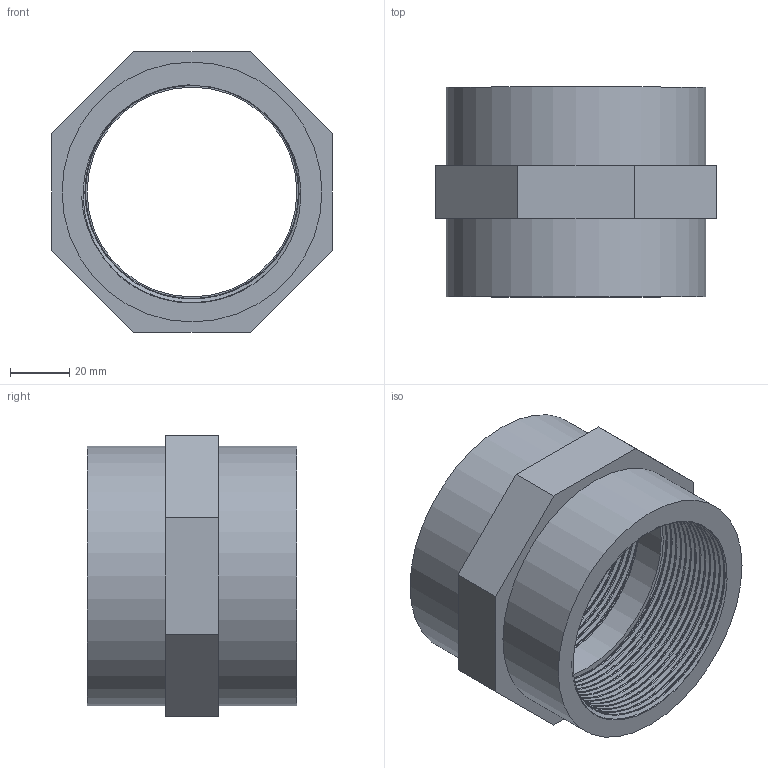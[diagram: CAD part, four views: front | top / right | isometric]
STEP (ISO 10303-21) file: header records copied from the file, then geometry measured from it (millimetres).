
FILE_DESCRIPTION(/* description */ ('PVC manicotto filettato BSP femmina'),/* implementation_level */ '2;1');
FILE_NAME(/* name */ 'C:\Users\POLYPIPE\Desktop\DATASET INVENTOR\LIBRERIA EFFAST\RACCORDI 3DxWEB\RER\3D_RERMAE\3D_RERMAE075H.stp',/* time_stamp */ '2018-01-19T16:37:47+01:00',/* author */ ('POLYPIPE'),/* organization */ ('Polypipe Italia'),/* preprocessor_version */ 'ST-DEVELOPER v16.1',/* originating_system */ 'Autodesk Inventor 2016',/* authorisation */ '');
FILE_SCHEMA (('CONFIG_CONTROL_DESIGN'));
Length unit declared in the file: millimetre
Products named in the file (1): 3D_RERMAE
Bounding box: 95 x 71 x 95 mm (x, y, z)
Volume: 157039.6 mm3; surface area: 53665.8 mm2
Topology: 1 solids, 1 shells, 27 faces, 63 edges, 42 vertices
Faces by surface type: plane 14, bspline 10, cylinder 3
Full cylindrical faces by diameter (mm): 71.026 x1, 88 x2
Entity records: 11076 total; most frequent: CARTESIAN_POINT 10520, ORIENTED_EDGE 120, DIRECTION 72, EDGE_CURVE 60, VERTEX_POINT 42, EDGE_LOOP 36, B_SPLINE_CURVE_WITH_KNOTS 30, FACE_OUTER_BOUND 27
